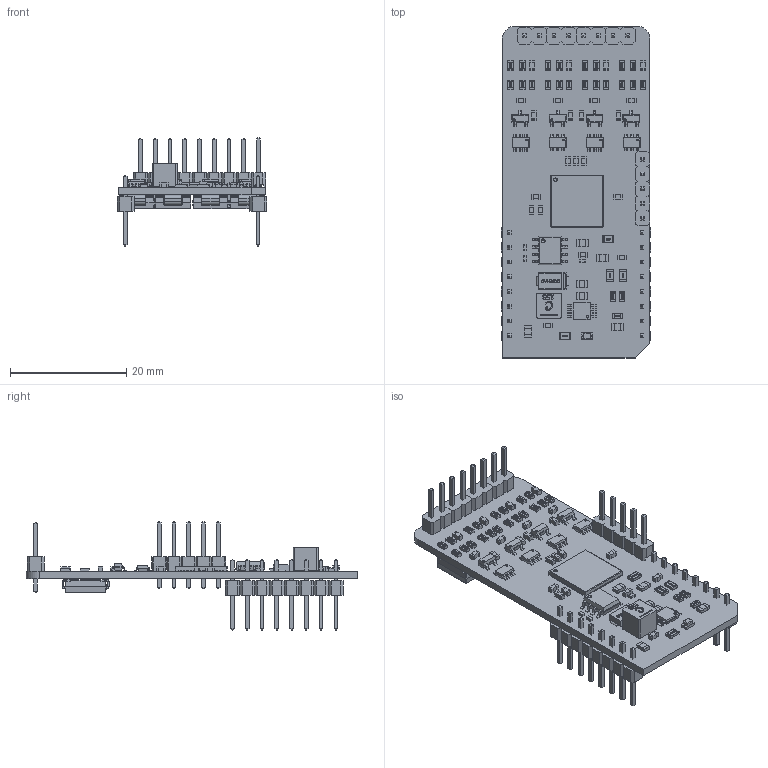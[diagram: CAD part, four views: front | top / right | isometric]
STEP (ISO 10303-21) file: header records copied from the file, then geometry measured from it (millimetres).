
FILE_DESCRIPTION(('Open CASCADE Model'),'2;1');
FILE_NAME('Open CASCADE Shape Model','2019-12-12T09:45:48',('Author'),( 'Open CASCADE'),'Open CASCADE STEP processor 6.8','Open CASCADE 6.8' ,'Unknown');
FILE_SCHEMA(('AUTOMOTIVE_DESIGN { 1 0 10303 214 1 1 1 1 }'));
Length unit declared in the file: millimetre
Products named in the file (105): PCB; Board; J?; HM1x5; 6130xx11121_PIN; 61300511121; JP1; User_Library-R_0805; U3; SOIC-8; C35; User_Library-SMD_CAPACITOR0402; C34; C33; C29; User_Library-SMD_CAPACITOR0603; C25; C21; C17; C16; User_Library-SMD_CAPACITOR0805; C14; C12; C11; C9; C1; R13; User_Library-R_0603; R12; R11; R10; R9; R8; RS12; RS11; RS10; RS9; RS8; RS7; RS6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
Assembly tree (175 placements, depth 4):
  PCB
    Board
    J?
      HM1x5
        6130xx11121_PIN  x5
        61300511121
    JP1
      User_Library-R_0805
    U3
      SOIC-8
    C35
      User_Library-SMD_CAPACITOR0402
    C34
      User_Library-SMD_CAPACITOR0402
    C33
      User_Library-SMD_CAPACITOR0402
    C29
      User_Library-SMD_CAPACITOR0603
    C25
      User_Library-SMD_CAPACITOR0603
    C21
      User_Library-SMD_CAPACITOR0603
    C17
      User_Library-SMD_CAPACITOR0603
    C16
      User_Library-SMD_CAPACITOR0805
    C14
      User_Library-SMD_CAPACITOR0603
    C12
      User_Library-SMD_CAPACITOR0805
    C11
      User_Library-SMD_CAPACITOR0603
    C9
      User_Library-SMD_CAPACITOR0603
    C1
      User_Library-SMD_CAPACITOR0805
    R13
      User_Library-R_0603
    R12
      User_Library-R_0603
    R11
      User_Library-R_0603
    R10
      User_Library-R_0603
    R9
      User_Library-R_0603
    R8
      User_Library-R_0603
    RS12
      User_Library-R_0603
    RS11
      User_Library-R_0603
    RS10
      User_Library-R_0603
    RS9
      User_Library-R_0603
    RS8
      User_Library-R_0603
    RS7
      User_Library-R_0603
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Bounding box: 25.79 x 57.15 x 18.65 mm (x, y, z)
Volume: 3308.2 mm3; surface area: 7225.1 mm2
Topology: 241 solids, 241 shells, 6848 faces, 17209 edges, 10941 vertices
Faces by surface type: plane 4069, bspline 1438, cylinder 1075, sphere 262, cone 4
Entity records: 80779 total; most frequent: CARTESIAN_POINT 21897, ORIENTED_EDGE 9580, DIRECTION 8633, EDGE_CURVE 4790, LINE 3609, VECTOR 3609, VERTEX_POINT 3092, AXIS2_PLACEMENT_3D 2512
